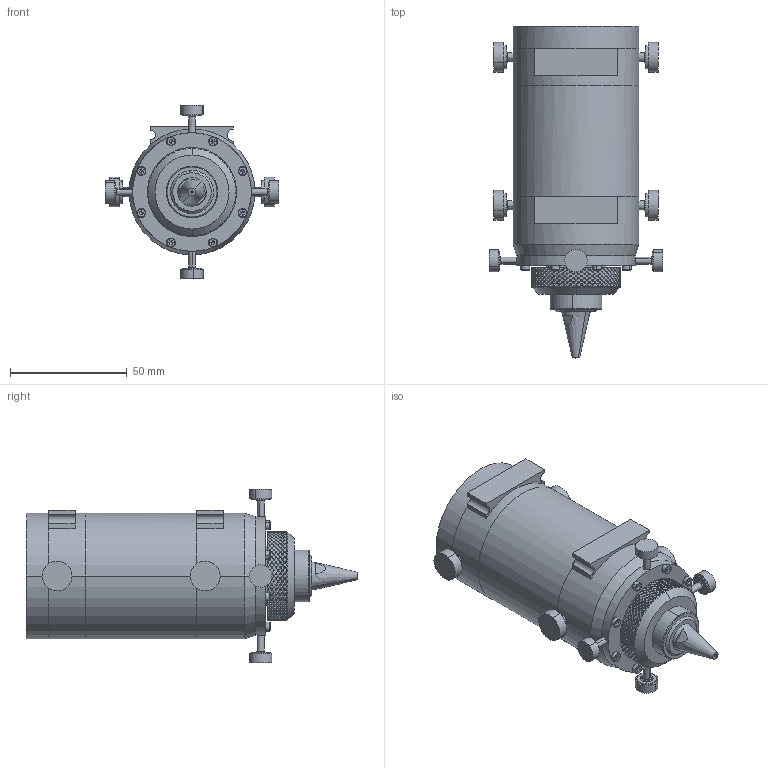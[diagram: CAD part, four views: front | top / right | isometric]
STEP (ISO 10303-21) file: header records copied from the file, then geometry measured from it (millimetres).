
FILE_DESCRIPTION (( 'STEP AP214' ), '1' );
FILE_NAME ('G1-25-25-064-127.STEP', '2016-10-27T20:32:19', ( '' ), ( '' ), 'SwSTEP 2.0', 'SolidWorks 2016', '' );
FILE_SCHEMA (( 'AUTOMOTIVE_DESIGN' ));
Length unit declared in the file: inch
Products named in the file (1): G1-25-25-064-127
Bounding box: 74.2 x 142.3 x 74.2 mm (x, y, z)
Volume: 250071 mm3; surface area: 40709.3 mm2
Topology: 1 solids, 1 shells, 2896 faces, 6101 edges, 3226 vertices
Faces by surface type: bspline 2000, cylinder 625, plane 199, cone 52, torus 16, sphere 4
Entity records: 86859 total; most frequent: CARTESIAN_POINT 47916, ORIENTED_EDGE 12170, EDGE_CURVE 6085, DIRECTION 3433, VERTEX_POINT 3226, EDGE_LOOP 2957, ADVANCED_FACE 2896, FACE_OUTER_BOUND 2896
